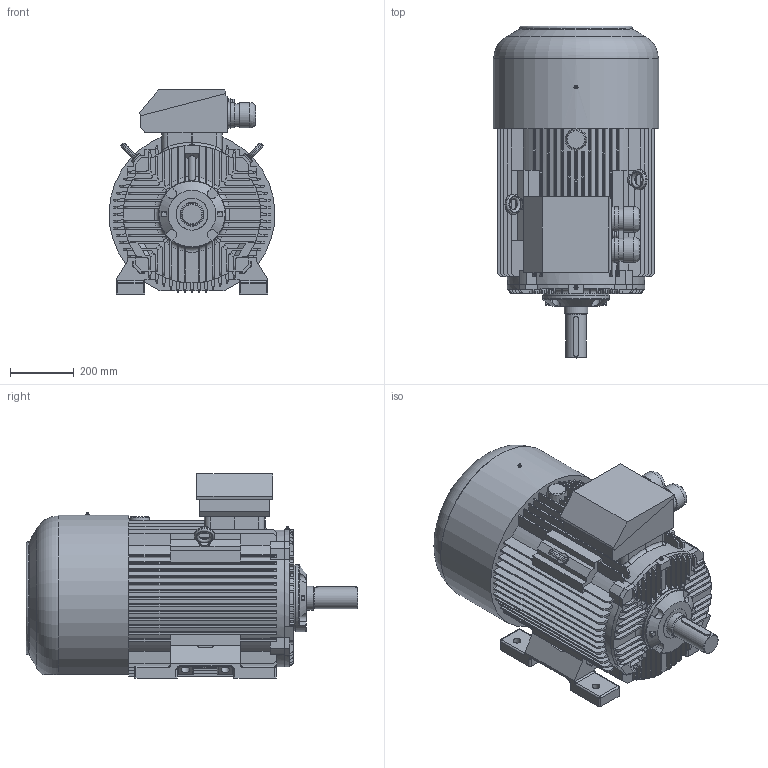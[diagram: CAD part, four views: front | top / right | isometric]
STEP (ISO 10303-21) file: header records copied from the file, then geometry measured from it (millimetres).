
FILE_DESCRIPTION( ( 'Unknown' ), '1' );
FILE_NAME( 'P:/3D_Bry³y silników skatalogowane/SIE/2SIE250/STEP/2SIE250_M4_6 silnik.stp', 'Unknown', ( 'Unknown' ), ( 'Unknown' ), 'XStep 1.0', 'Unknown', ' ' );
FILE_SCHEMA( ( 'CONFIG_CONTROL_DESIGN' ) );
Length unit declared in the file: millimetre
Products named in the file (3): 1; 2; 3
Bounding box: 519.62 x 1040 x 639.3 mm (x, y, z)
Volume: 159816440 mm3; surface area: 3578672.1 mm2
Topology: 3 solids, 6 shells, 1306 faces, 3468 edges, 2164 vertices
Faces by surface type: plane 723, cylinder 359, torus 94, bspline 72, sphere 48, cone 10
Full cylindrical faces by diameter (mm): 1.6 x2, 5 x6, 11.083 x1, 17.5 x4, 19 x1, 21 x1, 23 x1, 24 x4, 26 x4, 27 x1, 35 x4, 40 x2, 65 x1, 71.32 x2, 74.5 x1, 78.781 x2, 80.024 x2, 81.268 x2, 100 x1, 208 x1, 210 x1
Entity records: 51482 total; most frequent: CARTESIAN_POINT 19590, ORIENTED_EDGE 6636, DIRECTION 6601, EDGE_CURVE 3318, AXIS2_PLACEMENT_3D 2280, VERTEX_POINT 2132, LINE 2041, VECTOR 2041
